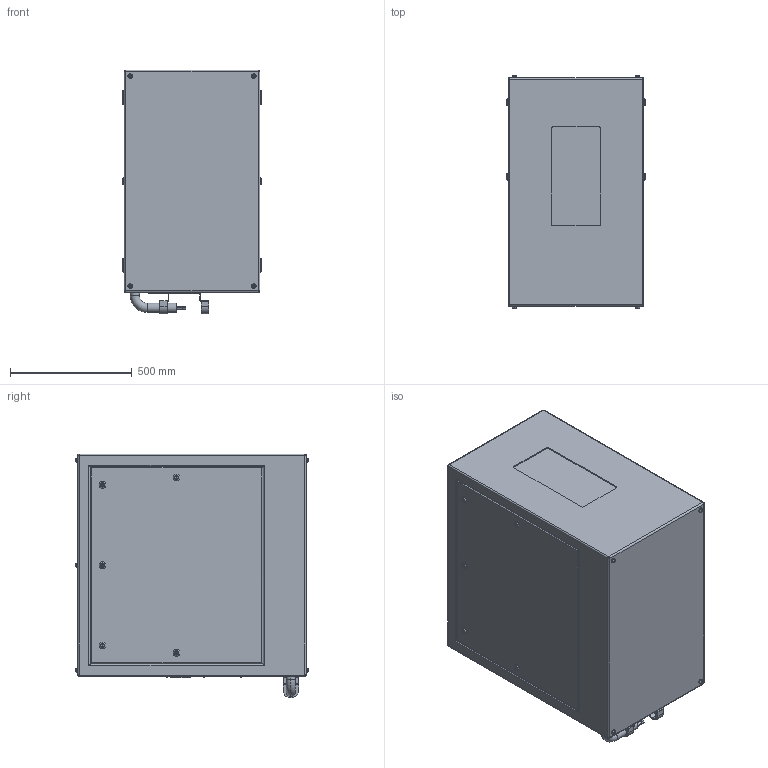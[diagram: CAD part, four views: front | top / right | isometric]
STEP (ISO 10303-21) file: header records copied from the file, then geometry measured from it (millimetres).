
FILE_DESCRIPTION (( 'STEP AP214' ), '1' );
FILE_NAME ('Oasis 59.125.P R02.STEP', '2022-08-27T16:00:32', ( '' ), ( '' ), 'SwSTEP 2.0', 'SolidWorks 2020', '' );
FILE_SCHEMA (( 'AUTOMOTIVE_DESIGN' ));
Length unit declared in the file: inch
Products named in the file (1): Oasis 59.125.P R02
Bounding box: 571.5 x 957.07 x 1003.3 mm (x, y, z)
Volume: 479477272 mm3; surface area: 4240807.7 mm2
Topology: 2 solids, 8 shells, 555 faces, 1265 edges, 802 vertices
Faces by surface type: plane 307, cylinder 186, torus 54, bspline 8
Entity records: 21388 total; most frequent: CARTESIAN_POINT 3135, DIRECTION 2763, ORIENTED_EDGE 2514, EDGE_CURVE 1257, AXIS2_PLACEMENT_3D 990, VERTEX_POINT 802, LINE 783, VECTOR 783
